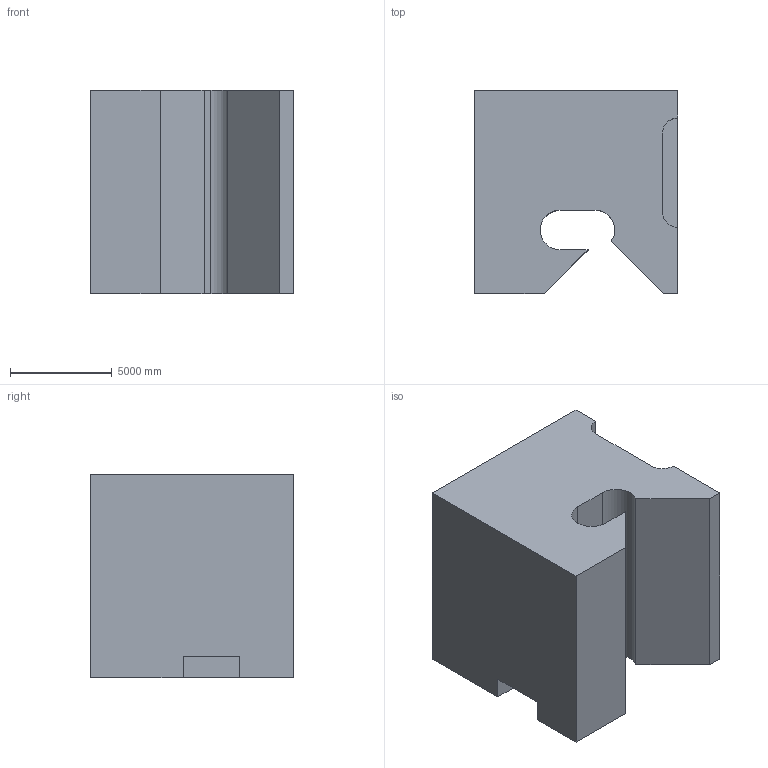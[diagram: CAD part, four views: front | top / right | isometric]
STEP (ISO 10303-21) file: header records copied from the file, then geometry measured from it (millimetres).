
FILE_DESCRIPTION (( 'STEP AP203' ), '1' );
FILE_NAME ('393.STEP', '2022-07-29T11:06:32', ( 'user' ), ( '' ), 'SwSTEP 2.0', 'SolidWorks 2021', '' );
FILE_SCHEMA (( 'CONFIG_CONTROL_DESIGN' ));
Length unit declared in the file: centimetre
Products named in the file (1): 393
Bounding box: 10000 x 10000 x 10000 mm (x, y, z)
Volume: 832826266764.5 mm3; surface area: 671597551.1 mm2
Topology: 1 solids, 1 shells, 22 faces, 60 edges, 40 vertices
Faces by surface type: plane 17, cylinder 5
Entity records: 771 total; most frequent: CARTESIAN_POINT 123, ORIENTED_EDGE 120, DIRECTION 116, EDGE_CURVE 60, VECTOR 50, LINE 50, VERTEX_POINT 40, AXIS2_PLACEMENT_3D 33
